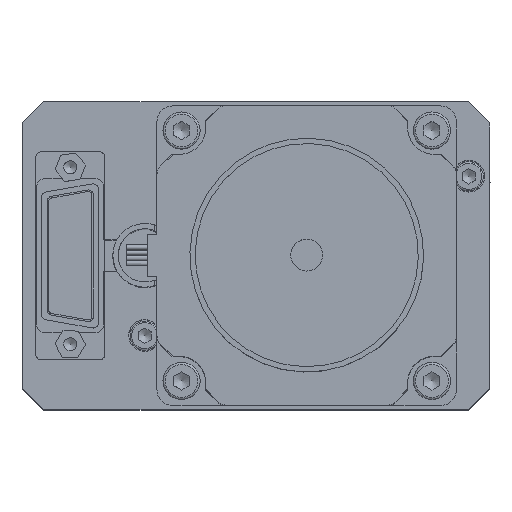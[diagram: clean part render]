
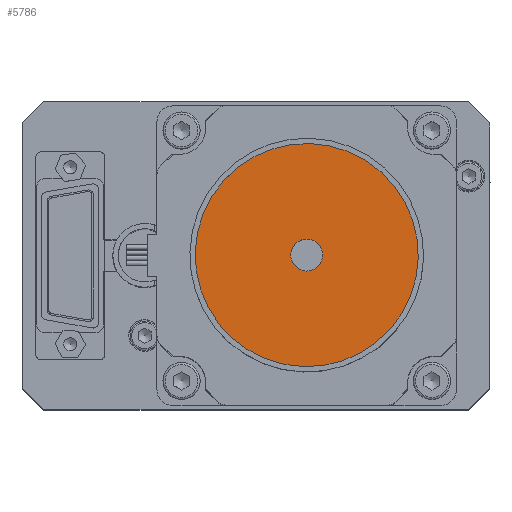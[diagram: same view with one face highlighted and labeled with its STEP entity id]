
A CAD part, top view. The second image highlights one B-rep face of the part: STEP entity #5786.
In plain terms, the highlighted planar face has unit normal (0, 0, 1).
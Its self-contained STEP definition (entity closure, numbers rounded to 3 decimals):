
#5588=CARTESIAN_POINT('',(26.127,23.161,129.5));
#5589=VERTEX_POINT('',#5588);
#5590=CARTESIAN_POINT('',(28.912,22.048,129.5));
#5591=DIRECTION('',(0.,0.,1.));
#5592=DIRECTION('',(-0.929,0.371,0.));
#5593=AXIS2_PLACEMENT_3D('',#5590,#5591,#5592);
#5594=CIRCLE('',#5593,3.);
#5595=EDGE_CURVE('',#5589,#5589,#5594,.T.);
#5760=CARTESIAN_POINT('',(9.412,29.842,129.5));
#5761=VERTEX_POINT('',#5760);
#5762=CARTESIAN_POINT('',(28.912,22.048,129.5));
#5763=DIRECTION('',(0.,0.,1.));
#5764=DIRECTION('',(-0.929,0.371,0.));
#5765=AXIS2_PLACEMENT_3D('',#5762,#5763,#5764);
#5766=CIRCLE('',#5765,21.);
#5767=EDGE_CURVE('',#5761,#5761,#5766,.T.);
#5775=CARTESIAN_POINT('',(17.769,26.502,129.5));
#5776=DIRECTION('',(0.0,0.0,1.0));
#5777=DIRECTION('',(0.371,0.929,0.0));
#5778=AXIS2_PLACEMENT_3D('',#5775,#5776,#5777);
#5779=PLANE('',#5778);
#5780=ORIENTED_EDGE('',*,*,#5767,.T.);
#5781=EDGE_LOOP('',(#5780));
#5782=FACE_OUTER_BOUND('',#5781,.T.);
#5783=ORIENTED_EDGE('',*,*,#5595,.F.);
#5784=EDGE_LOOP('',(#5783));
#5785=FACE_BOUND('',#5784,.T.);
#5786=ADVANCED_FACE('',(#5782,#5785),#5779,.T.);
